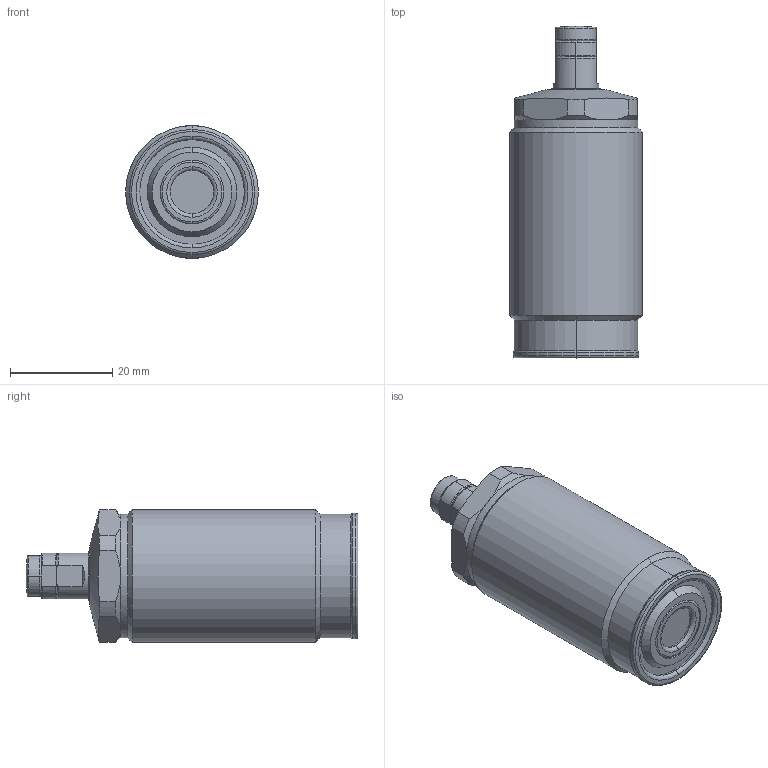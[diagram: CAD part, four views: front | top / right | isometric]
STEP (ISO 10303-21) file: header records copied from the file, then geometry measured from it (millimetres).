
FILE_DESCRIPTION(/* description */ (''),/* implementation_level */ '2;1');
FILE_NAME(/* name */ 'TNL26-M.stp',/* time_stamp */ '2025-01-09T11:13:01+08:00',/* author */ (''),/* organization */ (''),/* preprocessor_version */ 'ST-DEVELOPER v16.7',/* originating_system */ 'SIEMENS PLM Software NX 12.0',/* authorisation */ '');
FILE_SCHEMA (('AUTOMOTIVE_DESIGN { 1 0 10303 214 3 1 1 1 }'));
Length unit declared in the file: millimetre
Products named in the file (9): XLD-M6SP_pad; XLD-M6SP_pin; XLD-M6SP_contactbolt; XLD-M6SP_Oring; TNL26-02956; TNL26-01957; TNL26-05958; XLDM6SP; TNL26-M_stp
Assembly tree (8 placements, depth 3):
  TNL26-M_stp
    TNL26-05958
    TNL26-01957
    TNL26-02956
    XLDM6SP
      XLD-M6SP_Oring
      XLD-M6SP_contactbolt
      XLD-M6SP_pin
      XLD-M6SP_pad
Bounding box: 26 x 65 x 26 mm (x, y, z)
Volume: 27272 mm3; surface area: 7015 mm2
Topology: 7 solids, 7 shells, 182 faces, 408 edges, 246 vertices
Faces by surface type: cylinder 55, torus 43, plane 43, cone 37, sphere 4
Full cylindrical faces by diameter (mm): 24.2 x1, 26 x1
Entity records: 5771 total; most frequent: CARTESIAN_POINT 1411, DIRECTION 969, ORIENTED_EDGE 808, AXIS2_PLACEMENT_3D 426, EDGE_CURVE 404, VERTEX_POINT 246, CIRCLE 235, EDGE_LOOP 206
